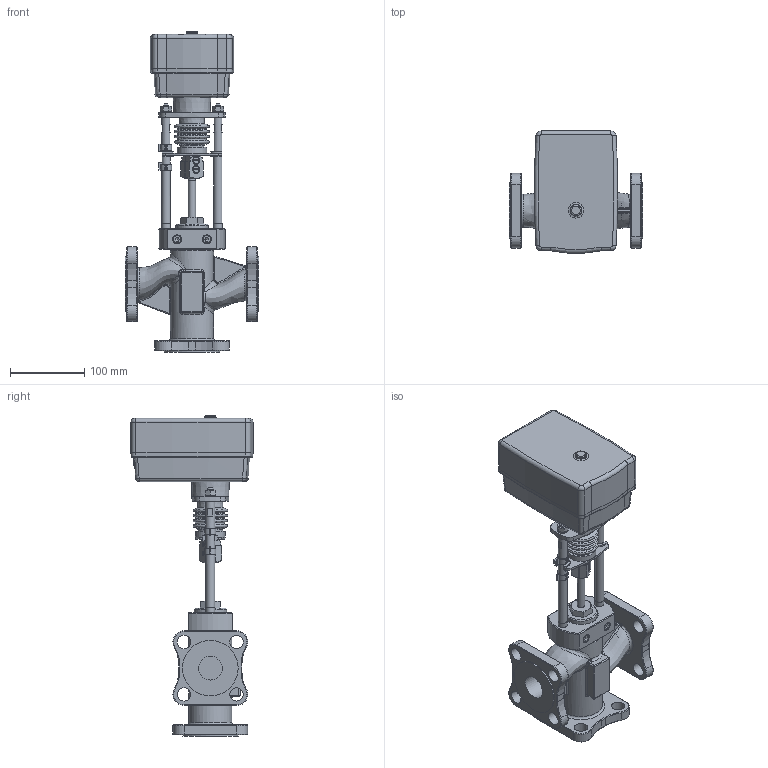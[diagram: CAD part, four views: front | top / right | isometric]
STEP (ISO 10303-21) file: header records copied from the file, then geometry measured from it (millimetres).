
FILE_DESCRIPTION(/* description */ ('Unknown'),/* implementation_level */ '2;1');
FILE_NAME(/* name */ 'TRV-3K-32-16-101',/* time_stamp */ '2023-01-16T11:44:29+03:00',/* author */ ('Unknown'),/* organization */ ('Unknown'),/* preprocessor_version */ 'ST-DEVELOPER v16.7',/* originating_system */ 'DEX',/* authorisation */ $);
FILE_SCHEMA (('AUTOMOTIVE_DESIGN {1 0 10303 214 3 1 1}'));
Length unit declared in the file: millimetre
Products named in the file (3): Êëàïàí DN32-3õ; Äó32-3õ; Ñáîðêà ¹5
Assembly tree (2 placements, depth 2):
  Êëàïàí DN32-3õ
    Äó32-3õ
    Ñáîðêà ¹5
Bounding box: 180 x 164.51 x 432.4 mm (x, y, z)
Volume: 2549981.1 mm3; surface area: 274818.6 mm2
Topology: 3 solids, 5 shells, 761 faces, 1865 edges, 1153 vertices
Faces by surface type: plane 333, cylinder 199, torus 88, cone 69, bspline 64, sphere 8
Full cylindrical faces by diameter (mm): 4.134 x2, 5 x3, 5.2 x5, 6.5 x1, 6.647 x2, 8 x4, 10 x4, 12 x2, 12.002 x4, 12.2 x2, 13.8 x2, 15 x1, 15.6 x1, 18 x12, 20 x1, 25 x1, 32 x3, 33.4 x1, 33.972 x1, 40 x1, 44 x2, 44.5 x1, 58 x1, 75 x3
Entity records: 26922 total; most frequent: CARTESIAN_POINT 6831, DIRECTION 3542, ORIENTED_EDGE 3368, EDGE_CURVE 1684, AXIS2_PLACEMENT_3D 1421, VERTEX_POINT 1094, FACE_BOUND 968, EDGE_LOOP 966
